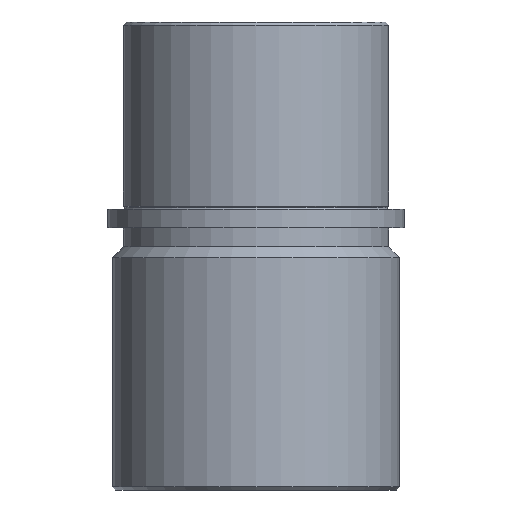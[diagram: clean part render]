
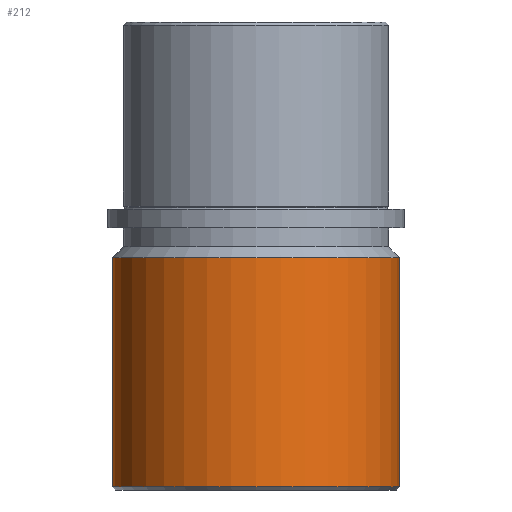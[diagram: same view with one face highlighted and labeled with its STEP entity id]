
A CAD part, front view. The second image highlights one B-rep face of the part: STEP entity #212.
In plain terms, the highlighted cylindrical face has radius 46 mm (diameter 92 mm), a partial arc.
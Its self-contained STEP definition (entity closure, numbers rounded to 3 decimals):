
#12 = DIRECTION ( 'NONE',  ( 0., 0., 1. ) ) ;
#13 = ORIENTED_EDGE ( 'NONE', *, *, #1027, .F. ) ;
#44 = EDGE_CURVE ( 'NONE', #738, #507, #1053, .T. ) ;
#45 = CYLINDRICAL_SURFACE ( 'NONE', #582, 46. ) ;
#123 = DIRECTION ( 'NONE',  ( 0., 0., 1. ) ) ;
#149 = CARTESIAN_POINT ( 'NONE',  ( 0., 0., 0. ) ) ;
#195 = DIRECTION ( 'NONE',  ( 1., 0., 0. ) ) ;
#209 = CARTESIAN_POINT ( 'NONE',  ( -46., 0., -149. ) ) ;
#212 = ADVANCED_FACE ( 'NONE', ( #736 ), #45, .T. ) ;
#220 = VERTEX_POINT ( 'NONE', #882 ) ;
#238 = CARTESIAN_POINT ( 'NONE',  ( 46., 0., -75.5 ) ) ;
#321 = ORIENTED_EDGE ( 'NONE', *, *, #44, .T. ) ;
#367 = CARTESIAN_POINT ( 'NONE',  ( 46., 0., 0. ) ) ;
#379 = VECTOR ( 'NONE', #697, 1000. ) ;
#383 = DIRECTION ( 'NONE',  ( 0., 0., 1. ) ) ;
#400 = AXIS2_PLACEMENT_3D ( 'NONE', #799, #788, #195 ) ;
#409 = ORIENTED_EDGE ( 'NONE', *, *, #1061, .T. ) ;
#424 = DIRECTION ( 'NONE',  ( 1., 0., 0. ) ) ;
#441 = AXIS2_PLACEMENT_3D ( 'NONE', #1036, #123, #424 ) ;
#507 = VERTEX_POINT ( 'NONE', #238 ) ;
#523 = VERTEX_POINT ( 'NONE', #209 ) ;
#579 = CIRCLE ( 'NONE', #441, 46. ) ;
#582 = AXIS2_PLACEMENT_3D ( 'NONE', #149, #12, #717 ) ;
#590 = LINE ( 'NONE', #1085, #379 ) ;
#613 = ORIENTED_EDGE ( 'NONE', *, *, #661, .F. ) ;
#661 = EDGE_CURVE ( 'NONE', #220, #507, #579, .T. ) ;
#697 = DIRECTION ( 'NONE',  ( 0., 0., 1. ) ) ;
#717 = DIRECTION ( 'NONE',  ( 1., 0., 0. ) ) ;
#736 = FACE_OUTER_BOUND ( 'NONE', #819, .T. ) ;
#738 = VERTEX_POINT ( 'NONE', #929 ) ;
#788 = DIRECTION ( 'NONE',  ( 0., 0., 1. ) ) ;
#799 = CARTESIAN_POINT ( 'NONE',  ( 0., 0., -149. ) ) ;
#819 = EDGE_LOOP ( 'NONE', ( #13, #409, #321, #613 ) ) ;
#882 = CARTESIAN_POINT ( 'NONE',  ( -46., 0., -75.5 ) ) ;
#929 = CARTESIAN_POINT ( 'NONE',  ( 46., 0., -149. ) ) ;
#978 = CIRCLE ( 'NONE', #400, 46. ) ;
#1027 = EDGE_CURVE ( 'NONE', #523, #220, #590, .T. ) ;
#1036 = CARTESIAN_POINT ( 'NONE',  ( 0., 0., -75.5 ) ) ;
#1053 = LINE ( 'NONE', #367, #1081 ) ;
#1061 = EDGE_CURVE ( 'NONE', #523, #738, #978, .T. ) ;
#1081 = VECTOR ( 'NONE', #383, 1000. ) ;
#1085 = CARTESIAN_POINT ( 'NONE',  ( -46., 0., 0. ) ) ;
